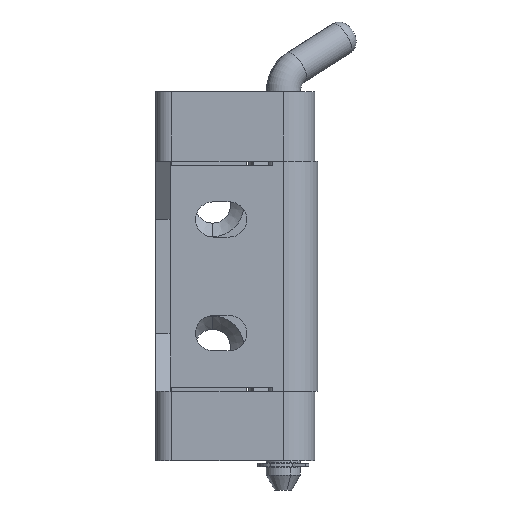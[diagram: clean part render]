
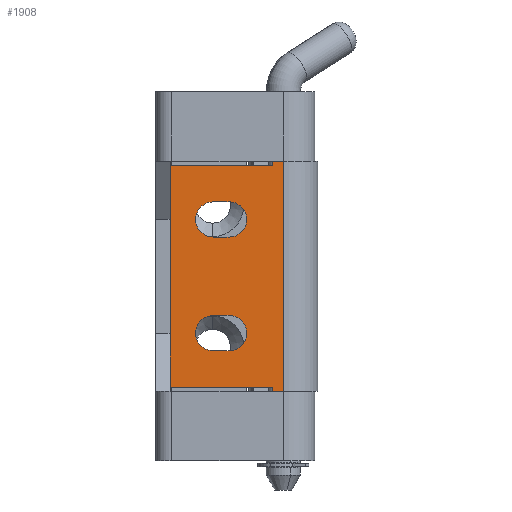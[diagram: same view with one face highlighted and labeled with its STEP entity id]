
A CAD part, left-side view. The second image highlights one B-rep face of the part: STEP entity #1908.
In plain terms, the highlighted planar face has unit normal (-1, 0, 0) as drawn and (0, -1, 0) by its records, which use the part's own axes.
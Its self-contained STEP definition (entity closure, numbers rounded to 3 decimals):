
#108 = CARTESIAN_POINT ( 'NONE',  ( 40.5, -6.05, 0. ) ) ;
#111 = AXIS2_PLACEMENT_3D ( 'NONE', #108, #138, #115 ) ;
#113 = CARTESIAN_POINT ( 'NONE',  ( 27.15, -6.05, 9.55 ) ) ;
#115 = DIRECTION ( 'NONE',  ( 0., 0., 1. ) ) ;
#116 = PLANE ( 'NONE',  #111 ) ;
#121 = FACE_OUTER_BOUND ( 'NONE', #2054, .T. ) ;
#123 = FACE_BOUND ( 'NONE', #1901, .T. ) ;
#138 = DIRECTION ( 'NONE',  ( 0., 1., 0. ) ) ;
#139 = FACE_BOUND ( 'NONE', #2011, .T. ) ;
#151 = DIRECTION ( 'NONE',  ( 0., 0., 1. ) ) ;
#152 = CARTESIAN_POINT ( 'NONE',  ( 33.35, -6.05, 9.55 ) ) ;
#157 = CARTESIAN_POINT ( 'NONE',  ( 40.5, -6.05, 19.95 ) ) ;
#161 = DIRECTION ( 'NONE',  ( 0., 1., 0. ) ) ;
#162 = CARTESIAN_POINT ( 'NONE',  ( 7.15, -6.05, 9.55 ) ) ;
#170 = AXIS2_PLACEMENT_3D ( 'NONE', #184, #161, #151 ) ;
#172 = CIRCLE ( 'NONE', #170, 3.1 ) ;
#177 = CARTESIAN_POINT ( 'NONE',  ( 39.75, -6.05, 19.95 ) ) ;
#184 = CARTESIAN_POINT ( 'NONE',  ( 10.25, -6.05, 9.55 ) ) ;
#208 = DIRECTION ( 'NONE',  ( -1., 0., 0. ) ) ;
#212 = CARTESIAN_POINT ( 'NONE',  ( 7.15, -6.05, 12.35 ) ) ;
#213 = CARTESIAN_POINT ( 'NONE',  ( 13.35, -6.05, 9.55 ) ) ;
#214 = VECTOR ( 'NONE', #208, 1000. ) ;
#215 = LINE ( 'NONE', #157, #214 ) ;
#248 = DIRECTION ( 'NONE',  ( 0., 0., 1. ) ) ;
#256 = CARTESIAN_POINT ( 'NONE',  ( 0.75, -6.05, 19.95 ) ) ;
#260 = CIRCLE ( 'NONE', #289, 3.1 ) ;
#284 = CARTESIAN_POINT ( 'NONE',  ( 30.25, -6.05, 12.35 ) ) ;
#289 = AXIS2_PLACEMENT_3D ( 'NONE', #284, #309, #248 ) ;
#309 = DIRECTION ( 'NONE',  ( 0., 1., 0. ) ) ;
#1697 = ORIENTED_EDGE ( 'NONE', *, *, #2069, .F. ) ;
#1700 = VERTEX_POINT ( 'NONE', #3225 ) ;
#1702 = VERTEX_POINT ( 'NONE', #3158 ) ;
#1707 = VERTEX_POINT ( 'NONE', #3219 ) ;
#1710 = EDGE_CURVE ( 'NONE', #1700, #1741, #3192, .T. ) ;
#1713 = VERTEX_POINT ( 'NONE', #3162 ) ;
#1735 = EDGE_CURVE ( 'NONE', #1713, #1707, #3255, .T. ) ;
#1741 = VERTEX_POINT ( 'NONE', #3319 ) ;
#1808 = VERTEX_POINT ( 'NONE', #3463 ) ;
#1826 = EDGE_CURVE ( 'NONE', #1831, #1808, #3640, .T. ) ;
#1831 = VERTEX_POINT ( 'NONE', #3708 ) ;
#1901 = EDGE_LOOP ( 'NONE', ( #2091, #1909, #1976, #2076, #1917 ) ) ;
#1903 = VERTEX_POINT ( 'NONE', #113 ) ;
#1908 = ADVANCED_FACE ( 'NONE', ( #123, #139, #121 ), #116, .F. ) ;
#1909 = ORIENTED_EDGE ( 'NONE', *, *, #1938, .T. ) ;
#1915 = VERTEX_POINT ( 'NONE', #213 ) ;
#1917 = ORIENTED_EDGE ( 'NONE', *, *, #1710, .T. ) ;
#1918 = VERTEX_POINT ( 'NONE', #212 ) ;
#1926 = EDGE_CURVE ( 'NONE', #1957, #1962, #215, .T. ) ;
#1938 = EDGE_CURVE ( 'NONE', #1915, #1939, #172, .T. ) ;
#1939 = VERTEX_POINT ( 'NONE', #162 ) ;
#1940 = VERTEX_POINT ( 'NONE', #152 ) ;
#1957 = VERTEX_POINT ( 'NONE', #177 ) ;
#1962 = VERTEX_POINT ( 'NONE', #256 ) ;
#1976 = ORIENTED_EDGE ( 'NONE', *, *, #2100, .T. ) ;
#1982 = EDGE_CURVE ( 'NONE', #2019, #1713, #260, .T. ) ;
#2011 = EDGE_LOOP ( 'NONE', ( #2052, #2040, #2079, #2063, #2078 ) ) ;
#2019 = VERTEX_POINT ( 'NONE', #4024 ) ;
#2024 = ORIENTED_EDGE ( 'NONE', *, *, #2031, .F. ) ;
#2025 = VERTEX_POINT ( 'NONE', #4037 ) ;
#2027 = ORIENTED_EDGE ( 'NONE', *, *, #1926, .T. ) ;
#2028 = ORIENTED_EDGE ( 'NONE', *, *, #2111, .T. ) ;
#2031 = EDGE_CURVE ( 'NONE', #1957, #2057, #4042, .T. ) ;
#2032 = ORIENTED_EDGE ( 'NONE', *, *, #2056, .F. ) ;
#2033 = VERTEX_POINT ( 'NONE', #4032 ) ;
#2036 = EDGE_CURVE ( 'NONE', #1903, #2019, #4027, .T. ) ;
#2037 = EDGE_CURVE ( 'NONE', #1940, #1903, #4045, .T. ) ;
#2040 = ORIENTED_EDGE ( 'NONE', *, *, #2037, .T. ) ;
#2043 = EDGE_CURVE ( 'NONE', #1702, #1831, #3792, .T. ) ;
#2052 = ORIENTED_EDGE ( 'NONE', *, *, #2065, .T. ) ;
#2053 = EDGE_CURVE ( 'NONE', #1918, #1700, #3809, .T. ) ;
#2054 = EDGE_LOOP ( 'NONE', ( #2055, #1697, #2024, #2027, #2032, #2110, #2028, #2058 ) ) ;
#2055 = ORIENTED_EDGE ( 'NONE', *, *, #2043, .F. ) ;
#2056 = EDGE_CURVE ( 'NONE', #2033, #1962, #3805, .T. ) ;
#2057 = VERTEX_POINT ( 'NONE', #3736 ) ;
#2058 = ORIENTED_EDGE ( 'NONE', *, *, #1826, .F. ) ;
#2059 = EDGE_CURVE ( 'NONE', #2025, #2033, #3742, .T. ) ;
#2063 = ORIENTED_EDGE ( 'NONE', *, *, #1982, .T. ) ;
#2065 = EDGE_CURVE ( 'NONE', #1707, #1940, #3738, .T. ) ;
#2069 = EDGE_CURVE ( 'NONE', #2057, #1702, #3752, .T. ) ;
#2076 = ORIENTED_EDGE ( 'NONE', *, *, #2053, .T. ) ;
#2078 = ORIENTED_EDGE ( 'NONE', *, *, #1735, .T. ) ;
#2079 = ORIENTED_EDGE ( 'NONE', *, *, #2036, .T. ) ;
#2091 = ORIENTED_EDGE ( 'NONE', *, *, #2094, .T. ) ;
#2094 = EDGE_CURVE ( 'NONE', #1741, #1915, #3926, .T. ) ;
#2100 = EDGE_CURVE ( 'NONE', #1939, #1918, #3879, .T. ) ;
#2110 = ORIENTED_EDGE ( 'NONE', *, *, #2059, .F. ) ;
#2111 = EDGE_CURVE ( 'NONE', #2025, #1808, #3922, .T. ) ;
#3156 = AXIS2_PLACEMENT_3D ( 'NONE', #3220, #3213, #3212 ) ;
#3158 = CARTESIAN_POINT ( 'NONE',  ( 40.5, -6.05, 1.95 ) ) ;
#3162 = CARTESIAN_POINT ( 'NONE',  ( 30.25, -6.05, 15.45 ) ) ;
#3192 = CIRCLE ( 'NONE', #3156, 3.1 ) ;
#3212 = DIRECTION ( 'NONE',  ( 0., 0., 1. ) ) ;
#3213 = DIRECTION ( 'NONE',  ( 0., 1., 0. ) ) ;
#3219 = CARTESIAN_POINT ( 'NONE',  ( 33.35, -6.05, 12.35 ) ) ;
#3220 = CARTESIAN_POINT ( 'NONE',  ( 10.25, -6.05, 12.35 ) ) ;
#3225 = CARTESIAN_POINT ( 'NONE',  ( 10.25, -6.05, 15.45 ) ) ;
#3237 = DIRECTION ( 'NONE',  ( 0., 0., 1. ) ) ;
#3238 = DIRECTION ( 'NONE',  ( 0., 1., 0. ) ) ;
#3239 = CARTESIAN_POINT ( 'NONE',  ( 30.25, -6.05, 12.35 ) ) ;
#3240 = AXIS2_PLACEMENT_3D ( 'NONE', #3239, #3238, #3237 ) ;
#3255 = CIRCLE ( 'NONE', #3240, 3.1 ) ;
#3319 = CARTESIAN_POINT ( 'NONE',  ( 13.35, -6.05, 12.35 ) ) ;
#3463 = CARTESIAN_POINT ( 'NONE',  ( 0., -6.05, 0. ) ) ;
#3640 = LINE ( 'NONE', #3709, #3678 ) ;
#3677 = DIRECTION ( 'NONE',  ( -1., 0., 0. ) ) ;
#3678 = VECTOR ( 'NONE', #3677, 1000. ) ;
#3708 = CARTESIAN_POINT ( 'NONE',  ( 40.5, -6.05, 0. ) ) ;
#3709 = CARTESIAN_POINT ( 'NONE',  ( 40.5, -6.05, 0. ) ) ;
#3730 = AXIS2_PLACEMENT_3D ( 'NONE', #3741, #3740, #3739 ) ;
#3736 = CARTESIAN_POINT ( 'NONE',  ( 39.75, -6.05, 1.95 ) ) ;
#3737 = CARTESIAN_POINT ( 'NONE',  ( 33.35, -6.05, 9.55 ) ) ;
#3738 = LINE ( 'NONE', #3737, #3773 ) ;
#3739 = DIRECTION ( 'NONE',  ( 0., 0., 1. ) ) ;
#3740 = DIRECTION ( 'NONE',  ( 0., 1., 0. ) ) ;
#3741 = CARTESIAN_POINT ( 'NONE',  ( 10.25, -6.05, 12.35 ) ) ;
#3742 = LINE ( 'NONE', #3786, #3784 ) ;
#3748 = DIRECTION ( 'NONE',  ( 1., 0., 0. ) ) ;
#3749 = VECTOR ( 'NONE', #3748, 1000. ) ;
#3750 = CARTESIAN_POINT ( 'NONE',  ( 39.75, -6.05, 1.95 ) ) ;
#3752 = LINE ( 'NONE', #3750, #3749 ) ;
#3772 = DIRECTION ( 'NONE',  ( 0., 0., -1. ) ) ;
#3773 = VECTOR ( 'NONE', #3772, 1000. ) ;
#3780 = DIRECTION ( 'NONE',  ( 0., 0., -1. ) ) ;
#3781 = VECTOR ( 'NONE', #3780, 1000. ) ;
#3784 = VECTOR ( 'NONE', #3785, 1000. ) ;
#3785 = DIRECTION ( 'NONE',  ( 1., 0., 0. ) ) ;
#3786 = CARTESIAN_POINT ( 'NONE',  ( -16.245, -6.05, 1.95 ) ) ;
#3788 = DIRECTION ( 'NONE',  ( 0., 0., 1. ) ) ;
#3789 = VECTOR ( 'NONE', #3788, 1000. ) ;
#3791 = CARTESIAN_POINT ( 'NONE',  ( 40.5, -6.05, 0. ) ) ;
#3792 = LINE ( 'NONE', #3791, #3781 ) ;
#3804 = CARTESIAN_POINT ( 'NONE',  ( 0.75, -6.05, 1.95 ) ) ;
#3805 = LINE ( 'NONE', #3804, #3789 ) ;
#3809 = CIRCLE ( 'NONE', #3730, 3.1 ) ;
#3864 = DIRECTION ( 'NONE',  ( 0., 0., -1. ) ) ;
#3867 = VECTOR ( 'NONE', #3877, 1000. ) ;
#3869 = CARTESIAN_POINT ( 'NONE',  ( 13.35, -6.05, 9.55 ) ) ;
#3877 = DIRECTION ( 'NONE',  ( 0., 0., 1. ) ) ;
#3878 = CARTESIAN_POINT ( 'NONE',  ( 7.15, -6.05, 12.35 ) ) ;
#3879 = LINE ( 'NONE', #3878, #3867 ) ;
#3896 = VECTOR ( 'NONE', #3928, 1000. ) ;
#3922 = LINE ( 'NONE', #3934, #3933 ) ;
#3926 = LINE ( 'NONE', #3869, #3896 ) ;
#3928 = DIRECTION ( 'NONE',  ( 0., 0., -1. ) ) ;
#3933 = VECTOR ( 'NONE', #3864, 1000. ) ;
#3934 = CARTESIAN_POINT ( 'NONE',  ( 0., -6.05, 0. ) ) ;
#4024 = CARTESIAN_POINT ( 'NONE',  ( 27.15, -6.05, 12.35 ) ) ;
#4026 = CARTESIAN_POINT ( 'NONE',  ( 27.15, -6.05, 9.55 ) ) ;
#4027 = LINE ( 'NONE', #4026, #4028 ) ;
#4028 = VECTOR ( 'NONE', #4034, 1000. ) ;
#4032 = CARTESIAN_POINT ( 'NONE',  ( 0.75, -6.05, 1.95 ) ) ;
#4033 = AXIS2_PLACEMENT_3D ( 'NONE', #4049, #4061, #4060 ) ;
#4034 = DIRECTION ( 'NONE',  ( 0., 0., 1. ) ) ;
#4037 = CARTESIAN_POINT ( 'NONE',  ( 0., -6.05, 1.95 ) ) ;
#4042 = LINE ( 'NONE', #4052, #4051 ) ;
#4045 = CIRCLE ( 'NONE', #4033, 3.1 ) ;
#4049 = CARTESIAN_POINT ( 'NONE',  ( 30.25, -6.05, 9.55 ) ) ;
#4050 = DIRECTION ( 'NONE',  ( 0., 0., -1. ) ) ;
#4051 = VECTOR ( 'NONE', #4050, 1000. ) ;
#4052 = CARTESIAN_POINT ( 'NONE',  ( 39.75, -6.05, 1.95 ) ) ;
#4060 = DIRECTION ( 'NONE',  ( 0., 0., 1. ) ) ;
#4061 = DIRECTION ( 'NONE',  ( 0., 1., 0. ) ) ;
